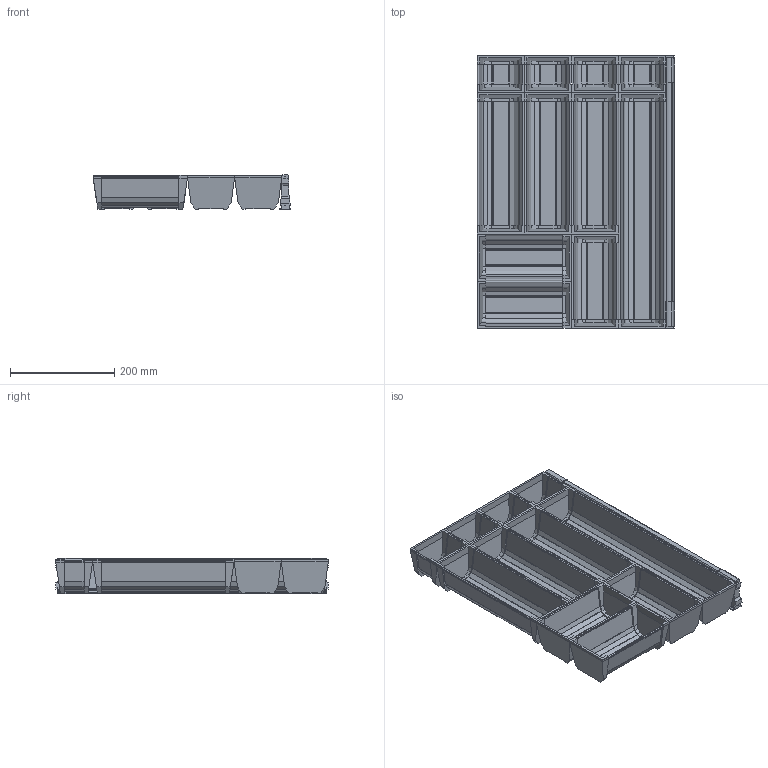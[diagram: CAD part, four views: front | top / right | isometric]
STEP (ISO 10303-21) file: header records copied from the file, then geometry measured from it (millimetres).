
FILE_DESCRIPTION (( 'STEP AP214' ), '1' );
FILE_NAME ('Magic-Sorto_B4_NL-550.STEP', '2010-08-17T11:33:15', ( 'grass' ), ( '' ), 'SwSTEP 2.0', 'SolidWorks 2010', '' );
FILE_SCHEMA (( 'AUTOMOTIVE_DESIGN' ));
Length unit declared in the file: millimetre
Products named in the file (1): Magic-Sorto_B4_NL-550
Bounding box: 379.4 x 523.5 x 67.5 mm (x, y, z)
Volume: 1124636.8 mm3; surface area: 1062675.5 mm2
Topology: 12 solids, 12 shells, 1357 faces, 3933 edges, 2622 vertices
Faces by surface type: plane 937, cylinder 420
Entity records: 59707 total; most frequent: CARTESIAN_POINT 8315, ORIENTED_EDGE 7866, DIRECTION 7353, EDGE_CURVE 3933, VECTOR 3033, LINE 3033, VERTEX_POINT 2622, AXIS2_PLACEMENT_3D 2160
